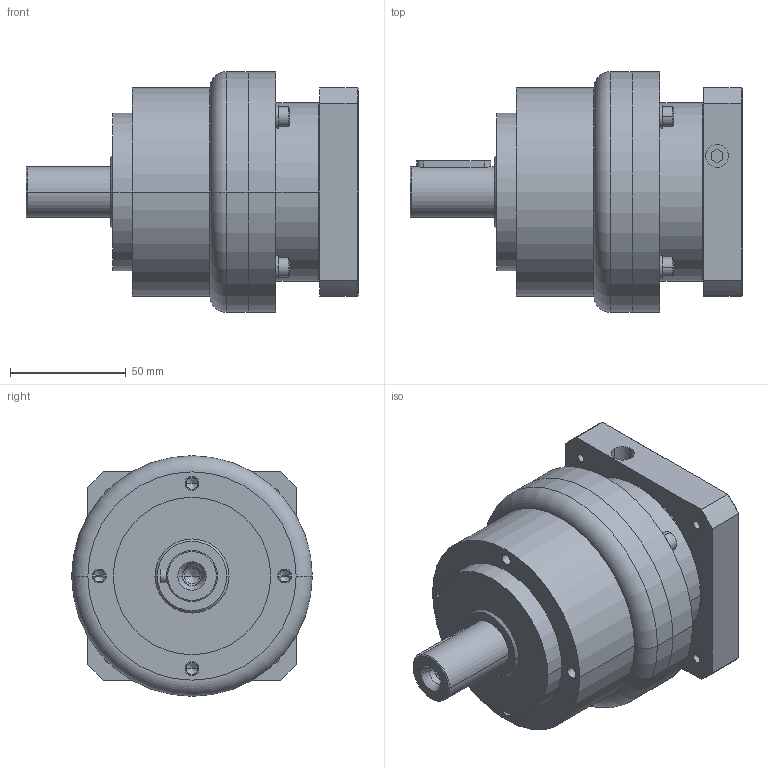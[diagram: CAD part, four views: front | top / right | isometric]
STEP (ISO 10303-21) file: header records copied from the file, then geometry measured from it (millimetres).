
FILE_DESCRIPTION((''),'2;1');
FILE_NAME('AE0901-P4130303_ASM','2005-10-31T',('D4016'),(''),'PRO/ENGINEER BY PARAMETRIC TECHNOLOGY CORPORATION, 2001280','PRO/ENGINEER BY PARAMETRIC TECHNOLOGY CORPORATION, 2001280','');
FILE_SCHEMA(('CONFIG_CONTROL_DESIGN'));
Length unit declared in the file: millimetre
Products named in the file (7): AE090-1; PK730001; 233100003; 220100606; COVER-SET-3_ASM; P4130303; AE0901-P4130303_ASM
Assembly tree (12 placements, depth 3):
  AE0901-P4130303_ASM
    AE090-1
    COVER-SET-3_ASM
      PK730001
      233100003  x4
      220100606  x4
    P4130303
Bounding box: 143.5 x 104 x 104 mm (x, y, z)
Volume: 658778.3 mm3; surface area: 101188 mm2
Topology: 11 solids, 20 shells, 333 faces, 740 edges, 453 vertices
Faces by surface type: cylinder 143, plane 122, cone 50, torus 18
Entity records: 6591 total; most frequent: DIRECTION 1238, CARTESIAN_POINT 1180, ORIENTED_EDGE 956, AXIS2_PLACEMENT_3D 510, EDGE_CURVE 496, VERTEX_POINT 315, EDGE_LOOP 271, CIRCLE 259
